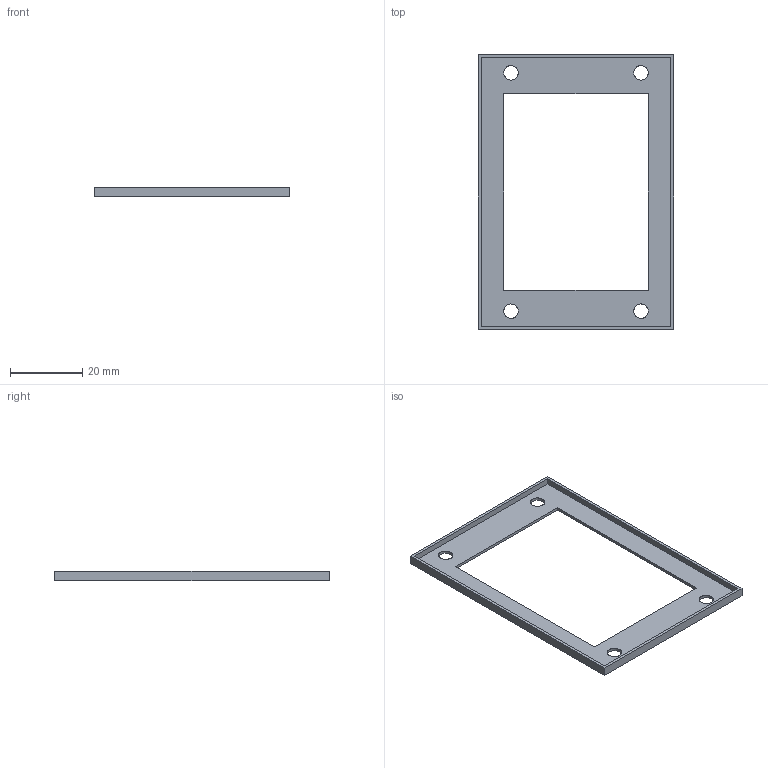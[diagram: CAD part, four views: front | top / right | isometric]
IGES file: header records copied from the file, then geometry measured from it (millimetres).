
Start section: START RECORD GO HERE.
Global section: file name: Abdeck_Rahmen_W3001.igs; native system: IBM CATIA IGES - CATIA Version 5 Release 19 ; preprocessor: CATIA Version 5 Release 19 ; author: Administrator; organization: M0000815; date: 20230320.160725; units: millimetre
Bounding box: 54 x 76 x 2.5 mm (x, y, z)
Surface area: 5020 mm2 (no closed solid volume)
Topology: 0 solids, 0 shells, 23 faces, 120 edges, 120 vertices
Faces by surface type: plane 15, revolution 8
